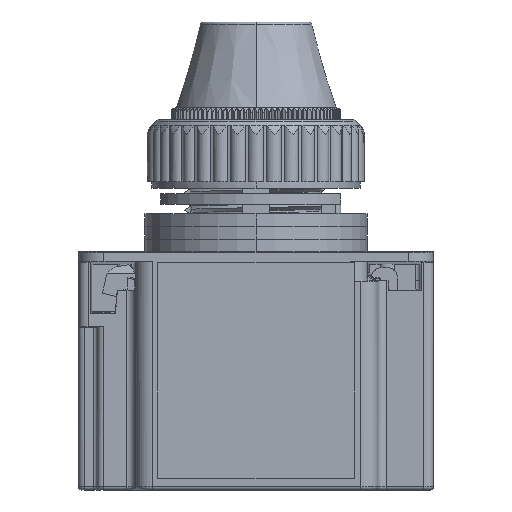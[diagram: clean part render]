
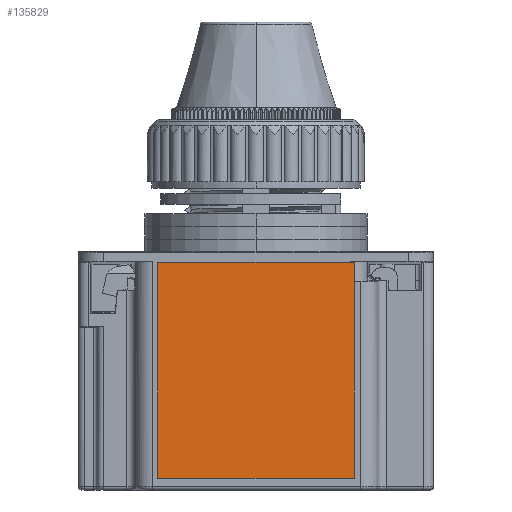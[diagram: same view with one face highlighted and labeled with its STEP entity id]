
A CAD part, left-side view. The second image highlights one B-rep face of the part: STEP entity #135829.
In plain terms, the highlighted planar face has unit normal (-1, 0, 0) as drawn and (0, 0, 1) by its records, which use the part's own axes.
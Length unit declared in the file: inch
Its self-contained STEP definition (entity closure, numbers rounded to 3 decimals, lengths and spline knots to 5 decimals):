
#135714=DIRECTION('',(0.,-1.,0.));
#135715=VECTOR('',#135714,1.02);
#135716=CARTESIAN_POINT('',(-0.465,0.51,0.015));
#135717=LINE('',#135716,#135715);
#135718=DIRECTION('',(-1.,0.,0.));
#135719=VECTOR('',#135718,0.93);
#135720=CARTESIAN_POINT('',(0.465,0.51,0.015));
#135721=LINE('',#135720,#135719);
#135722=DIRECTION('',(0.,1.,0.));
#135723=VECTOR('',#135722,1.02);
#135724=CARTESIAN_POINT('',(0.465,-0.51,0.015));
#135725=LINE('',#135724,#135723);
#135726=DIRECTION('',(1.,0.,0.));
#135727=VECTOR('',#135726,0.93);
#135728=CARTESIAN_POINT('',(-0.465,-0.51,0.015));
#135729=LINE('',#135728,#135727);
#135738=CARTESIAN_POINT('',(-0.465,0.51,0.015));
#135739=CARTESIAN_POINT('',(-0.465,-0.51,0.015));
#135740=VERTEX_POINT('',#135738);
#135741=VERTEX_POINT('',#135739);
#135742=CARTESIAN_POINT('',(0.465,-0.51,0.015));
#135743=VERTEX_POINT('',#135742);
#135744=CARTESIAN_POINT('',(0.465,0.51,0.015));
#135745=VERTEX_POINT('',#135744);
#135818=CARTESIAN_POINT('',(0.,0.,0.015));
#135819=DIRECTION('',(0.,0.,1.));
#135820=DIRECTION('',(1.,0.,0.));
#135821=AXIS2_PLACEMENT_3D('',#135818,#135819,#135820);
#135822=PLANE('',#135821);
#135823=ORIENTED_EDGE('',*,*,#135770,.F.);
#135824=ORIENTED_EDGE('',*,*,#135785,.F.);
#135825=ORIENTED_EDGE('',*,*,#135799,.F.);
#135826=ORIENTED_EDGE('',*,*,#135812,.F.);
#135827=EDGE_LOOP('',(#135823,#135824,#135825,#135826));
#135828=FACE_OUTER_BOUND('',#135827,.F.);
#135829=ADVANCED_FACE('',(#135828),#135822,.T.);
#135770=EDGE_CURVE('',#135740,#135741,#135717,.T.);
#135785=EDGE_CURVE('',#135745,#135740,#135721,.T.);
#135799=EDGE_CURVE('',#135743,#135745,#135725,.T.);
#135812=EDGE_CURVE('',#135741,#135743,#135729,.T.);
